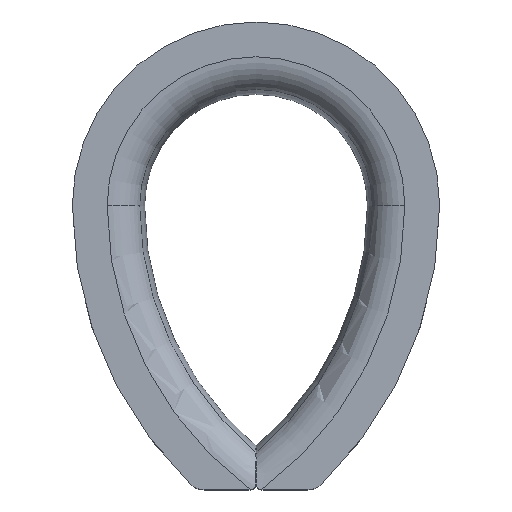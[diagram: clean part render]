
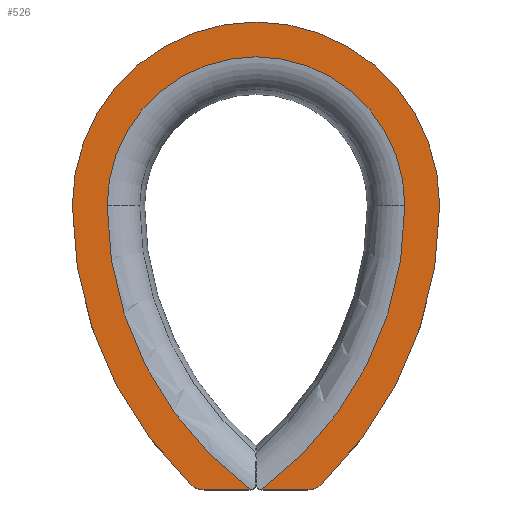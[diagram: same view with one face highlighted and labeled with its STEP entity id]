
A CAD part, top view. The second image highlights one B-rep face of the part: STEP entity #526.
In plain terms, the highlighted planar face has unit normal (0, 0, 1).
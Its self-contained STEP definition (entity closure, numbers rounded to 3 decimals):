
#27=LINE('',#915,#49);
#28=LINE('',#927,#50);
#49=VECTOR('',#675,10.);
#50=VECTOR('',#686,10.);
#71=PLANE('',#586);
#82=FACE_OUTER_BOUND('',#114,.T.);
#114=EDGE_LOOP('',(#357,#358,#359,#360,#361,#362,#363,#364,#365,#366,#367,
#368));
#143=CIRCLE('',#576,182.35);
#148=CIRCLE('',#582,76.994);
#150=CIRCLE('',#585,182.35);
#151=CIRCLE('',#587,3.);
#152=CIRCLE('',#588,10.);
#153=CIRCLE('',#589,200.356);
#154=CIRCLE('',#590,95.);
#155=CIRCLE('',#591,200.356);
#156=CIRCLE('',#592,10.);
#157=CIRCLE('',#593,3.);
#206=VERTEX_POINT('',#818);
#207=VERTEX_POINT('',#843);
#210=VERTEX_POINT('',#862);
#214=VERTEX_POINT('',#883);
#215=VERTEX_POINT('',#912);
#216=VERTEX_POINT('',#914);
#217=VERTEX_POINT('',#916);
#218=VERTEX_POINT('',#918);
#219=VERTEX_POINT('',#920);
#220=VERTEX_POINT('',#922);
#221=VERTEX_POINT('',#924);
#222=VERTEX_POINT('',#926);
#260=EDGE_CURVE('',#206,#207,#143,.T.);
#266=EDGE_CURVE('',#207,#210,#148,.T.);
#269=EDGE_CURVE('',#210,#214,#150,.T.);
#271=EDGE_CURVE('',#215,#206,#151,.T.);
#272=EDGE_CURVE('',#215,#216,#27,.T.);
#273=EDGE_CURVE('',#217,#216,#152,.T.);
#274=EDGE_CURVE('',#217,#218,#153,.T.);
#275=EDGE_CURVE('',#218,#219,#154,.T.);
#276=EDGE_CURVE('',#219,#220,#155,.T.);
#277=EDGE_CURVE('',#221,#220,#156,.T.);
#278=EDGE_CURVE('',#221,#222,#28,.T.);
#279=EDGE_CURVE('',#214,#222,#157,.T.);
#357=ORIENTED_EDGE('',*,*,#269,.F.);
#358=ORIENTED_EDGE('',*,*,#266,.F.);
#359=ORIENTED_EDGE('',*,*,#260,.F.);
#360=ORIENTED_EDGE('',*,*,#271,.F.);
#361=ORIENTED_EDGE('',*,*,#272,.T.);
#362=ORIENTED_EDGE('',*,*,#273,.F.);
#363=ORIENTED_EDGE('',*,*,#274,.T.);
#364=ORIENTED_EDGE('',*,*,#275,.T.);
#365=ORIENTED_EDGE('',*,*,#276,.T.);
#366=ORIENTED_EDGE('',*,*,#277,.F.);
#367=ORIENTED_EDGE('',*,*,#278,.T.);
#368=ORIENTED_EDGE('',*,*,#279,.F.);
#526=ADVANCED_FACE('',(#82),#71,.T.);
#576=AXIS2_PLACEMENT_3D('',#844,#651,#652);
#582=AXIS2_PLACEMENT_3D('',#866,#663,#664);
#585=AXIS2_PLACEMENT_3D('',#884,#669,#670);
#586=AXIS2_PLACEMENT_3D('',#911,#671,#672);
#587=AXIS2_PLACEMENT_3D('',#913,#673,#674);
#588=AXIS2_PLACEMENT_3D('',#917,#676,#677);
#589=AXIS2_PLACEMENT_3D('',#919,#678,#679);
#590=AXIS2_PLACEMENT_3D('',#921,#680,#681);
#591=AXIS2_PLACEMENT_3D('',#923,#682,#683);
#592=AXIS2_PLACEMENT_3D('',#925,#684,#685);
#593=AXIS2_PLACEMENT_3D('',#928,#687,#688);
#651=DIRECTION('center_axis',(0.,0.,1.));
#652=DIRECTION('ref_axis',(0.898,-0.441,0.));
#663=DIRECTION('center_axis',(0.,0.,1.));
#664=DIRECTION('ref_axis',(0.,1.,0.));
#669=DIRECTION('center_axis',(0.,0.,1.));
#670=DIRECTION('ref_axis',(-0.898,-0.441,0.));
#671=DIRECTION('center_axis',(0.,0.,1.));
#672=DIRECTION('ref_axis',(0.583,0.813,0.));
#673=DIRECTION('center_axis',(0.,0.,-1.));
#674=DIRECTION('ref_axis',(-0.707,-0.707,0.));
#675=DIRECTION('',(1.,0.,0.));
#676=DIRECTION('center_axis',(0.,0.,-1.));
#677=DIRECTION('ref_axis',(0.374,-0.927,0.));
#678=DIRECTION('center_axis',(0.,0.,1.));
#679=DIRECTION('ref_axis',(0.583,-0.813,0.));
#680=DIRECTION('center_axis',(0.,0.,1.));
#681=DIRECTION('ref_axis',(1.,0.,0.));
#682=DIRECTION('center_axis',(0.,0.,1.));
#683=DIRECTION('ref_axis',(-1.,0.,0.));
#684=DIRECTION('center_axis',(0.,0.,-1.));
#685=DIRECTION('ref_axis',(-0.374,-0.927,0.));
#686=DIRECTION('',(1.,0.,0.));
#687=DIRECTION('center_axis',(0.,0.,-1.));
#688=DIRECTION('ref_axis',(0.707,-0.707,0.));
#818=CARTESIAN_POINT('',(2.602,-146.958,26.));
#843=CARTESIAN_POINT('',(76.994,0.,26.));
#844=CARTESIAN_POINT('Origin',(-105.356,0.,26.));
#862=CARTESIAN_POINT('',(-76.994,0.,26.));
#866=CARTESIAN_POINT('Origin',(0.,0.,26.));
#883=CARTESIAN_POINT('',(-2.602,-146.958,26.));
#884=CARTESIAN_POINT('Origin',(105.356,0.,26.));
#911=CARTESIAN_POINT('Origin',(67.052,0.,26.));
#912=CARTESIAN_POINT('',(3.1,-147.,26.));
#913=CARTESIAN_POINT('Origin',(3.1,-144.,26.));
#914=CARTESIAN_POINT('',(26.805,-147.,26.));
#915=CARTESIAN_POINT('',(18.135,-147.,26.));
#916=CARTESIAN_POINT('',(33.747,-144.197,26.));
#917=CARTESIAN_POINT('Origin',(26.805,-137.,26.));
#918=CARTESIAN_POINT('',(95.,0.,26.));
#919=CARTESIAN_POINT('Origin',(-105.356,0.,26.));
#920=CARTESIAN_POINT('',(-95.,0.,26.));
#921=CARTESIAN_POINT('Origin',(0.,0.,26.));
#922=CARTESIAN_POINT('',(-33.747,-144.197,26.));
#923=CARTESIAN_POINT('Origin',(105.356,0.,26.));
#924=CARTESIAN_POINT('',(-26.805,-147.,26.));
#925=CARTESIAN_POINT('Origin',(-26.805,-137.,26.));
#926=CARTESIAN_POINT('',(-3.1,-147.,26.));
#927=CARTESIAN_POINT('',(18.135,-147.,26.));
#928=CARTESIAN_POINT('Origin',(-3.1,-144.,26.));
